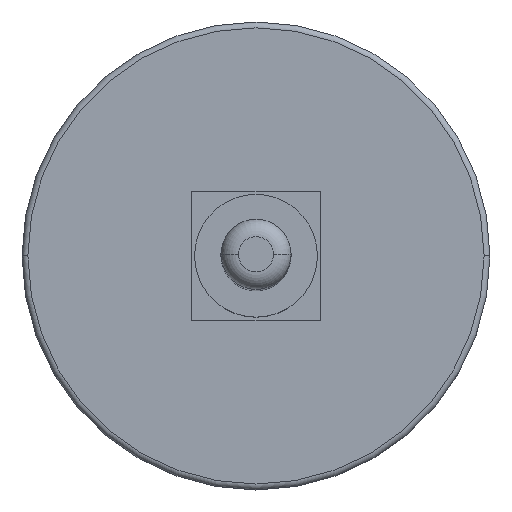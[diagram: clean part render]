
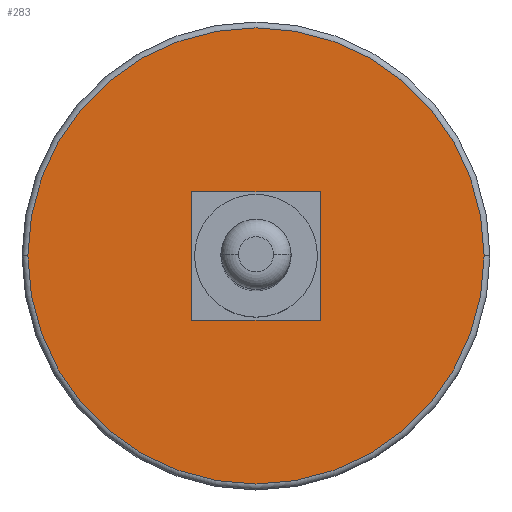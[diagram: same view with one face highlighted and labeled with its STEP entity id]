
A CAD part, top view. The second image highlights one B-rep face of the part: STEP entity #283.
In plain terms, the highlighted planar face has unit normal (0, 0, 1).
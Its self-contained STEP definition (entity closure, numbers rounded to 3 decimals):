
#9 = CIRCLE ( 'NONE', #127, 39. ) ;
#15 = PLANE ( 'NONE',  #48 ) ;
#23 = CARTESIAN_POINT ( 'NONE',  ( 0., 0., 10.5 ) ) ;
#24 = VERTEX_POINT ( 'NONE', #415 ) ;
#48 = AXIS2_PLACEMENT_3D ( 'NONE', #244, #301, #487 ) ;
#52 = FACE_OUTER_BOUND ( 'NONE', #69, .T. ) ;
#57 = EDGE_CURVE ( 'NONE', #386, #508, #9, .T. ) ;
#69 = EDGE_LOOP ( 'NONE', ( #162, #362 ) ) ;
#102 = DIRECTION ( 'NONE',  ( 1., 0., 0. ) ) ;
#108 = EDGE_LOOP ( 'NONE', ( #440, #304, #573, #486 ) ) ;
#115 = LINE ( 'NONE', #591, #527 ) ;
#127 = AXIS2_PLACEMENT_3D ( 'NONE', #588, #456, #102 ) ;
#128 = LINE ( 'NONE', #455, #378 ) ;
#130 = CIRCLE ( 'NONE', #250, 39. ) ;
#139 = DIRECTION ( 'NONE',  ( 0., 1., 0. ) ) ;
#141 = VERTEX_POINT ( 'NONE', #374 ) ;
#143 = LINE ( 'NONE', #510, #439 ) ;
#162 = ORIENTED_EDGE ( 'NONE', *, *, #57, .T. ) ;
#209 = FACE_BOUND ( 'NONE', #108, .T. ) ;
#217 = DIRECTION ( 'NONE',  ( 0., 0., 1. ) ) ;
#244 = CARTESIAN_POINT ( 'NONE',  ( 0., 0., 10.5 ) ) ;
#250 = AXIS2_PLACEMENT_3D ( 'NONE', #23, #217, #539 ) ;
#251 = DIRECTION ( 'NONE',  ( -1., 0., 0. ) ) ;
#253 = EDGE_CURVE ( 'NONE', #345, #24, #254, .T. ) ;
#254 = LINE ( 'NONE', #441, #576 ) ;
#267 = CARTESIAN_POINT ( 'NONE',  ( 11., 11., 10.5 ) ) ;
#274 = CARTESIAN_POINT ( 'NONE',  ( 11., -11., 10.5 ) ) ;
#283 = ADVANCED_FACE ( 'NONE', ( #52, #209 ), #15, .T. ) ;
#301 = DIRECTION ( 'NONE',  ( 0., 0., 1. ) ) ;
#304 = ORIENTED_EDGE ( 'NONE', *, *, #346, .F. ) ;
#345 = VERTEX_POINT ( 'NONE', #267 ) ;
#346 = EDGE_CURVE ( 'NONE', #141, #402, #128, .T. ) ;
#362 = ORIENTED_EDGE ( 'NONE', *, *, #393, .T. ) ;
#374 = CARTESIAN_POINT ( 'NONE',  ( -11., -11., 10.5 ) ) ;
#378 = VECTOR ( 'NONE', #406, 1000. ) ;
#386 = VERTEX_POINT ( 'NONE', #589 ) ;
#393 = EDGE_CURVE ( 'NONE', #508, #386, #130, .T. ) ;
#402 = VERTEX_POINT ( 'NONE', #274 ) ;
#406 = DIRECTION ( 'NONE',  ( 1., 0., 0. ) ) ;
#411 = EDGE_CURVE ( 'NONE', #24, #141, #115, .T. ) ;
#415 = CARTESIAN_POINT ( 'NONE',  ( -11., 11., 10.5 ) ) ;
#439 = VECTOR ( 'NONE', #139, 1000. ) ;
#440 = ORIENTED_EDGE ( 'NONE', *, *, #478, .F. ) ;
#441 = CARTESIAN_POINT ( 'NONE',  ( -11., 11., 10.5 ) ) ;
#455 = CARTESIAN_POINT ( 'NONE',  ( -11., -11., 10.5 ) ) ;
#456 = DIRECTION ( 'NONE',  ( 0., 0., 1. ) ) ;
#478 = EDGE_CURVE ( 'NONE', #402, #345, #143, .T. ) ;
#486 = ORIENTED_EDGE ( 'NONE', *, *, #253, .F. ) ;
#487 = DIRECTION ( 'NONE',  ( 1., 0., 0. ) ) ;
#500 = DIRECTION ( 'NONE',  ( 0., -1., 0. ) ) ;
#508 = VERTEX_POINT ( 'NONE', #549 ) ;
#510 = CARTESIAN_POINT ( 'NONE',  ( 11., 11., 10.5 ) ) ;
#527 = VECTOR ( 'NONE', #500, 1000. ) ;
#539 = DIRECTION ( 'NONE',  ( 1., 0., 0. ) ) ;
#549 = CARTESIAN_POINT ( 'NONE',  ( -39., 0., 10.5 ) ) ;
#573 = ORIENTED_EDGE ( 'NONE', *, *, #411, .F. ) ;
#576 = VECTOR ( 'NONE', #251, 1000. ) ;
#588 = CARTESIAN_POINT ( 'NONE',  ( 0., 0., 10.5 ) ) ;
#589 = CARTESIAN_POINT ( 'NONE',  ( 39., 0., 10.5 ) ) ;
#591 = CARTESIAN_POINT ( 'NONE',  ( -11., 11., 10.5 ) ) ;
